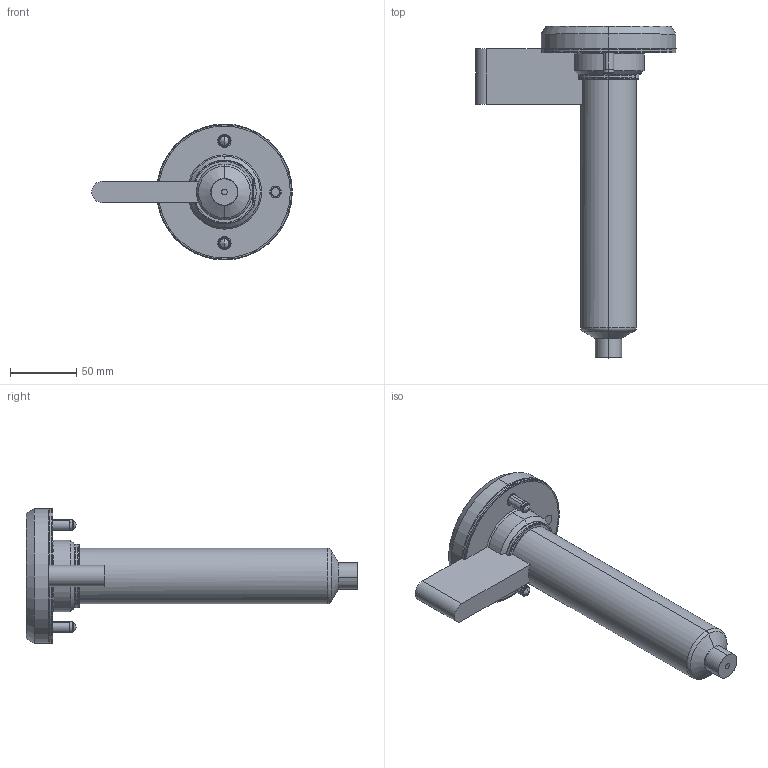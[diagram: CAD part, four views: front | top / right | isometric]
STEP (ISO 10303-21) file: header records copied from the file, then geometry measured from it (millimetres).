
FILE_DESCRIPTION (( 'STEP AP214' ), '1' );
FILE_NAME ('SOHSB16200-SOFBOP16EX.STEP', '2024-11-28T09:00:13', ( '' ), ( '' ), 'SwSTEP 2.0', 'SolidWorks 2022', '' );
FILE_SCHEMA (( 'AUTOMOTIVE_DESIGN' ));
Length unit declared in the file: millimetre
Products named in the file (11): EcoONE-HSB16-16004_SONH28192; EcoONE-HSB16-16003(A)_SOHSBNB16200; EcoONE-HSB16-Point Gate Needle Tip-Standard_SOPGN1601; EcoONE-HSB16-16005_SOTC10350-J; EcoONE-HSB16-00002(A)_SOHSBLR16; EcoONE-HSB16-Open Gate Extended Full Body Retainer Tip_SOFRT1602; EcoONE-HSB16-Open Gate Cut-out Details_Ext Sprue Gate or Full Body Gate; EcoONE-HSB16-16006_SONHC16; EcoONE-HSB16-Open Gate Extended Full Body Standad Tip Assembly_SOFBOP16EX; socket head cap screw_iso_ISO 4762 M8 x 25 - 25N; SOHSB16200-SOFBOP16EX
Assembly tree (12 placements, depth 3):
  SOHSB16200-SOFBOP16EX
    EcoONE-HSB16-16003(A)_SOHSBNB16200
    EcoONE-HSB16-16004_SONH28192
    EcoONE-HSB16-16005_SOTC10350-J
    EcoONE-HSB16-16006_SONHC16  x2
    EcoONE-HSB16-00002(A)_SOHSBLR16
    socket head cap screw_iso_ISO 4762 M8 x 25 - 25N  x2
    EcoONE-HSB16-Open Gate Extended Full Body Standad Tip Assembly_SOFBOP16EX
      EcoONE-HSB16-Open Gate Extended Full Body Retainer Tip_SOFRT1602
      EcoONE-HSB16-Point Gate Needle Tip-Standard_SOPGN1601
    EcoONE-HSB16-Open Gate Cut-out Details_Ext Sprue Gate or Full Body Gate
Bounding box: 151.2 x 250 x 102.4 mm (x, y, z)
Volume: 688535.5 mm3; surface area: 166127 mm2
Topology: 11 solids, 11 shells, 516 faces, 1289 edges, 808 vertices
Faces by surface type: cylinder 157, plane 134, bspline 106, cone 85, torus 26, sphere 8
Entity records: 30140 total; most frequent: CARTESIAN_POINT 18713, ORIENTED_EDGE 2354, DIRECTION 1959, EDGE_CURVE 1177, AXIS2_PLACEMENT_3D 790, VERTEX_POINT 745, EDGE_LOOP 512, ADVANCED_FACE 473
